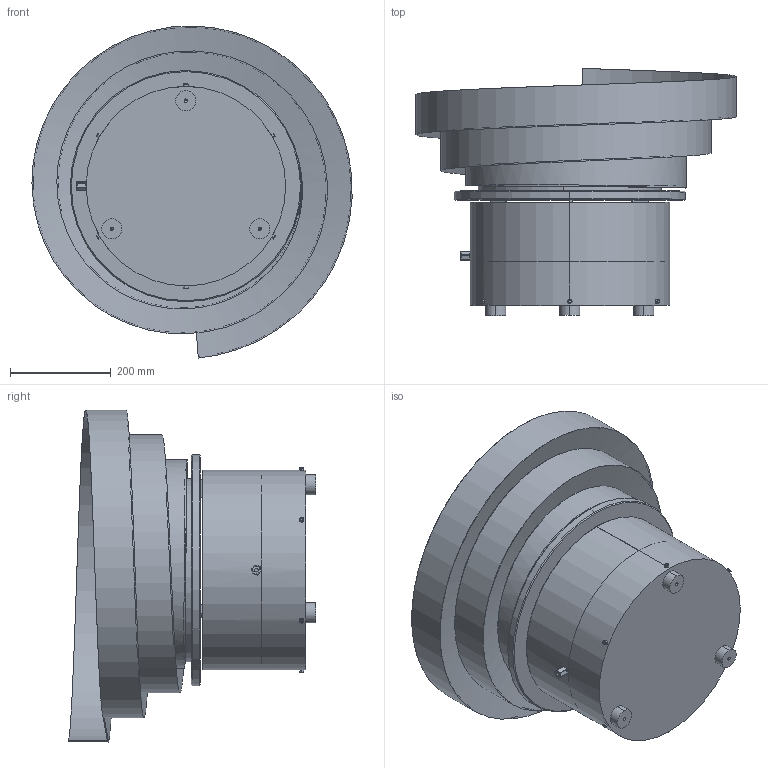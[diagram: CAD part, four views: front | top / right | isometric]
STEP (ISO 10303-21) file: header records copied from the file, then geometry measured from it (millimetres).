
FILE_DESCRIPTION (( 'STEP AP214' ), '1' );
FILE_NAME ('PW600_A650L-80_LEWY_wibramet.STEP', '2020-10-27T10:31:11', ( '' ), ( '' ), 'SwSTEP 2.0', 'SolidWorks 2017', '' );
FILE_SCHEMA (( 'AUTOMOTIVE_DESIGN' ));
Length unit declared in the file: millimetre
Products named in the file (5): socket head cap screw_iso_ISO 4762 M16 x 55 - 55N; PW600_A650L-80_LEWY_wibramet; PW500_WIBRAMET; PW500-00.22[Podk³adka]; A650L-80
Assembly tree (4 placements, depth 2):
  PW600_A650L-80_LEWY_wibramet
    PW500_WIBRAMET
    A650L-80
    PW500-00.22[Podk³adka]
    socket head cap screw_iso_ISO 4762 M16 x 55 - 55N
Bounding box: 636.97 x 492.3 x 660.59 mm (x, y, z)
Volume: 14201142.4 mm3; surface area: 2612161.2 mm2
Topology: 3 solids, 7 shells, 249 faces, 579 edges, 357 vertices
Faces by surface type: plane 104, cylinder 65, cone 32, bspline 26, torus 16, sphere 6
Entity records: 14002 total; most frequent: CARTESIAN_POINT 7507, ORIENTED_EDGE 1130, DIRECTION 1130, EDGE_CURVE 567, AXIS2_PLACEMENT_3D 417, VERTEX_POINT 355, VECTOR 296, LINE 296
